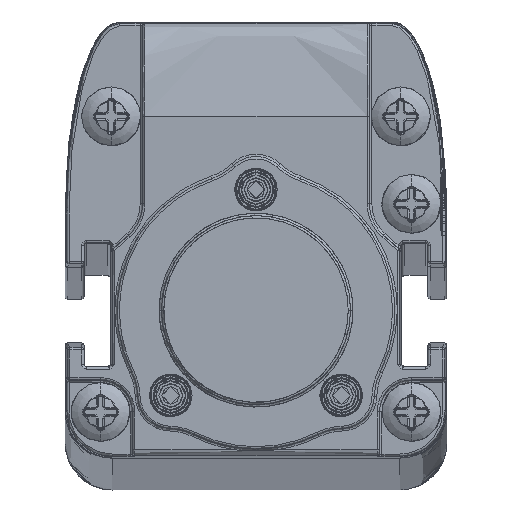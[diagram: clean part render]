
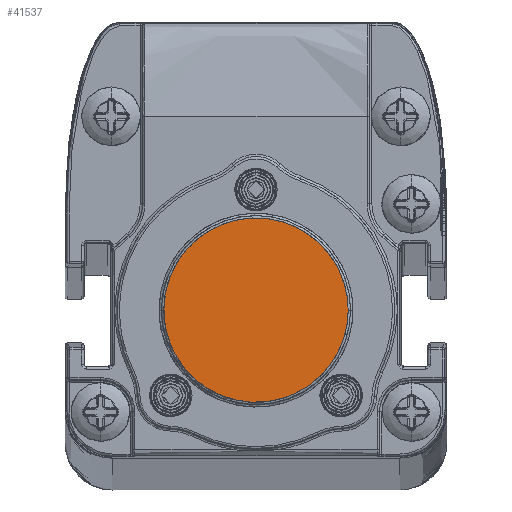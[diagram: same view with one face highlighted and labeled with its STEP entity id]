
A CAD part, top view. The second image highlights one B-rep face of the part: STEP entity #41537.
In plain terms, the highlighted planar face has unit normal (0, 0, 1).
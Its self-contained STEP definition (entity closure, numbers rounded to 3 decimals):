
#41446=CARTESIAN_POINT('',(-7.797,0.219,1583.34));
#41447=CARTESIAN_POINT('',(-7.789,0.474,1583.34));
#41448=CARTESIAN_POINT('',(-7.75,0.98,1583.34));
#41449=CARTESIAN_POINT('',(-7.617,1.734,1583.34));
#41450=CARTESIAN_POINT('',(-7.414,2.464,1583.34));
#41451=CARTESIAN_POINT('',(-7.144,3.16,1583.34));
#41452=CARTESIAN_POINT('',(-6.807,3.833,1583.34));
#41453=CARTESIAN_POINT('',(-6.409,4.467,1583.34));
#41454=CARTESIAN_POINT('',(-5.958,5.052,1583.34));
#41455=CARTESIAN_POINT('',(-5.449,5.597,1583.34));
#41456=CARTESIAN_POINT('',(-4.888,6.094,1583.34));
#41457=CARTESIAN_POINT('',(-4.283,6.534,1583.34));
#41458=CARTESIAN_POINT('',(-3.627,6.92,1583.34));
#41459=CARTESIAN_POINT('',(-2.919,7.247,1583.34));
#41460=CARTESIAN_POINT('',(-2.178,7.503,1583.34));
#41461=CARTESIAN_POINT('',(-1.411,7.685,1583.34));
#41462=CARTESIAN_POINT('',(-0.631,7.788,1583.34));
#41463=CARTESIAN_POINT('',(0.141,7.811,1583.34));
#41464=CARTESIAN_POINT('',(0.945,7.756,1583.34));
#41465=CARTESIAN_POINT('',(1.696,7.626,1583.34));
#41466=CARTESIAN_POINT('',(2.456,7.417,1583.34));
#41467=CARTESIAN_POINT('',(3.187,7.133,1583.34));
#41468=CARTESIAN_POINT('',(3.87,6.787,1583.34));
#41469=CARTESIAN_POINT('',(4.515,6.375,1583.34));
#41470=CARTESIAN_POINT('',(5.113,5.906,1583.34));
#41471=CARTESIAN_POINT('',(5.665,5.38,1583.34));
#41472=CARTESIAN_POINT('',(6.147,4.82,1583.34));
#41473=CARTESIAN_POINT('',(6.578,4.214,1583.34));
#41474=CARTESIAN_POINT('',(6.955,3.556,1583.34));
#41475=CARTESIAN_POINT('',(7.248,2.91,1583.34));
#41476=CARTESIAN_POINT('',(7.495,2.2,1583.34));
#41477=CARTESIAN_POINT('',(7.67,1.482,1583.34));
#41478=CARTESIAN_POINT('',(7.774,0.785,1583.34));
#41479=CARTESIAN_POINT('',(7.799,0.267,1583.34));
#41480=CARTESIAN_POINT('',(7.8,0.,1583.34));
#41485=CARTESIAN_POINT('',(7.8,0.,1583.34));
#41486=CARTESIAN_POINT('',(7.8,-0.271,1583.34));
#41487=CARTESIAN_POINT('',(7.772,-0.805,1583.34));
#41488=CARTESIAN_POINT('',(7.659,-1.548,1583.34));
#41489=CARTESIAN_POINT('',(7.453,-2.346,1583.34));
#41490=CARTESIAN_POINT('',(7.172,-3.096,1583.34));
#41491=CARTESIAN_POINT('',(6.828,-3.801,1583.34));
#41492=CARTESIAN_POINT('',(6.385,-4.503,1583.34));
#41493=CARTESIAN_POINT('',(5.916,-5.103,1583.34));
#41494=CARTESIAN_POINT('',(5.376,-5.67,1583.34));
#41495=CARTESIAN_POINT('',(4.78,-6.179,1583.34));
#41496=CARTESIAN_POINT('',(4.15,-6.619,1583.34));
#41497=CARTESIAN_POINT('',(3.481,-6.994,1583.34));
#41498=CARTESIAN_POINT('',(2.783,-7.299,1583.34));
#41499=CARTESIAN_POINT('',(2.052,-7.538,1583.34));
#41500=CARTESIAN_POINT('',(1.323,-7.699,1583.34));
#41501=CARTESIAN_POINT('',(0.579,-7.79,1583.34));
#41502=CARTESIAN_POINT('',(-0.175,-7.81,1583.34));
#41503=CARTESIAN_POINT('',(-0.916,-7.758,1583.34));
#41504=CARTESIAN_POINT('',(-1.646,-7.636,1583.34));
#41505=CARTESIAN_POINT('',(-2.37,-7.444,1583.34));
#41506=CARTESIAN_POINT('',(-3.071,-7.183,1583.34));
#41507=CARTESIAN_POINT('',(-3.746,-6.856,1583.34));
#41508=CARTESIAN_POINT('',(-4.403,-6.454,1583.34));
#41509=CARTESIAN_POINT('',(-5.026,-5.982,1583.34));
#41510=CARTESIAN_POINT('',(-5.601,-5.448,1583.34));
#41511=CARTESIAN_POINT('',(-6.124,-4.852,1583.34));
#41512=CARTESIAN_POINT('',(-6.573,-4.225,1583.34));
#41513=CARTESIAN_POINT('',(-6.967,-3.534,1583.34));
#41514=CARTESIAN_POINT('',(-7.287,-2.819,1583.34));
#41515=CARTESIAN_POINT('',(-7.529,-2.085,1583.34));
#41516=CARTESIAN_POINT('',(-7.701,-1.315,1583.34));
#41517=CARTESIAN_POINT('',(-7.793,-0.545,1583.34));
#41518=CARTESIAN_POINT('',(-7.804,-0.035,1583.34));
#41519=CARTESIAN_POINT('',(-7.797,0.219,1583.34));
#41524=VERTEX_POINT('',#41480);
#41525=VERTEX_POINT('',#41446);
#41526=CARTESIAN_POINT('',(0.,-0.001,1583.34));
#41527=DIRECTION('',(0.,0.,1.));
#41528=DIRECTION('',(1.,0.,0.));
#41529=AXIS2_PLACEMENT_3D('',#41526,#41527,#41528);
#41530=PLANE('',#41529);
#41532=ORIENTED_EDGE('',*,*,#41531,.T.);
#41534=ORIENTED_EDGE('',*,*,#41533,.T.);
#41535=EDGE_LOOP('',(#41532,#41534));
#41536=FACE_OUTER_BOUND('',#41535,.F.);
#41537=ADVANCED_FACE('',(#41536),#41530,.T.);
#41481=B_SPLINE_CURVE_WITH_KNOTS('',3,(#41446,#41447,#41448,#41449,#41450,
#41451,#41452,#41453,#41454,#41455,#41456,#41457,#41458,#41459,#41460,#41461,
#41462,#41463,#41464,#41465,#41466,#41467,#41468,#41469,#41470,#41471,#41472,
#41473,#41474,#41475,#41476,#41477,#41478,#41479,#41480),.UNSPECIFIED.,.F.,.F.,(
4,1,1,1,1,1,1,1,1,1,1,1,1,1,1,1,1,1,1,1,1,1,1,1,1,1,1,1,1,1,1,1,4),(0.,
0.031,0.063,0.094,0.125,0.156,0.188,0.219,0.25,0.281,
0.313,0.344,0.375,0.406,0.438,0.469,0.5,0.531,
0.563,0.594,0.625,0.656,0.688,0.719,0.75,0.781,
0.813,0.844,0.875,0.906,0.938,0.969,1.),.UNSPECIFIED.);
#41520=B_SPLINE_CURVE_WITH_KNOTS('',3,(#41485,#41486,#41487,#41488,#41489,
#41490,#41491,#41492,#41493,#41494,#41495,#41496,#41497,#41498,#41499,#41500,
#41501,#41502,#41503,#41504,#41505,#41506,#41507,#41508,#41509,#41510,#41511,
#41512,#41513,#41514,#41515,#41516,#41517,#41518,#41519),.UNSPECIFIED.,.F.,.F.,(
4,1,1,1,1,1,1,1,1,1,1,1,1,1,1,1,1,1,1,1,1,1,1,1,1,1,1,1,1,1,1,1,4),(0.,
0.031,0.063,0.094,0.125,0.156,0.188,0.219,0.25,0.281,
0.313,0.344,0.375,0.406,0.438,0.469,0.5,0.531,
0.563,0.594,0.625,0.656,0.688,0.719,0.75,0.781,
0.813,0.844,0.875,0.906,0.938,0.969,1.),.UNSPECIFIED.);
#41531=EDGE_CURVE('',#41525,#41524,#41481,.T.);
#41533=EDGE_CURVE('',#41524,#41525,#41520,.T.);
